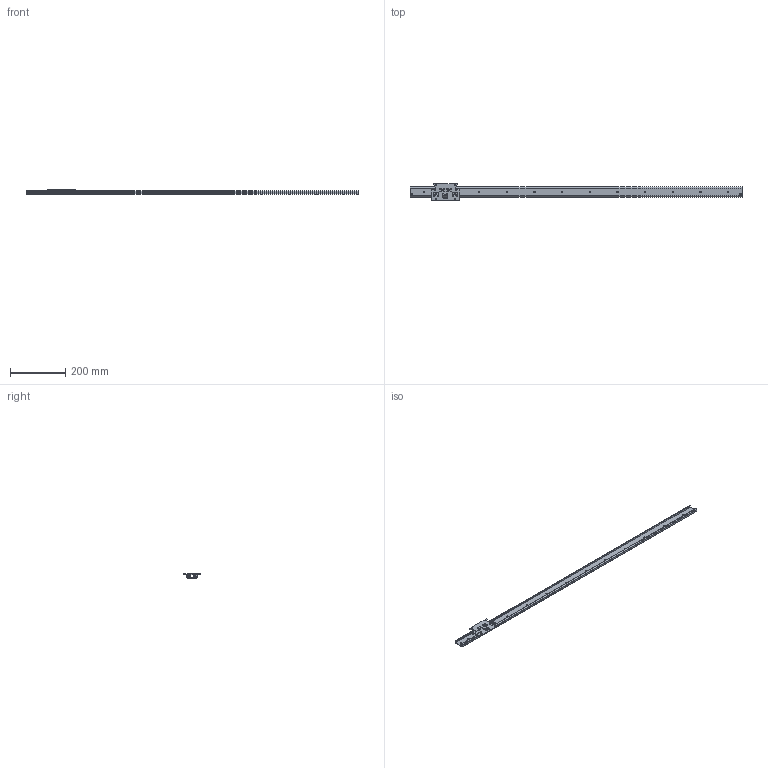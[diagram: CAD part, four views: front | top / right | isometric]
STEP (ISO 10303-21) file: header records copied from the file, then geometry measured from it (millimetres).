
FILE_DESCRIPTION((''),'1');
FILE_NAME('H:/図庫/国内ﾕﾆｯﾄ/ｽﾗｲﾄﾞ/ホームページ用ＣＡＤ図面/3D/37SW/stp', '2018-10-22T23:37:29',(''), (''), 'KCM Version 1.1.1442.0', 'Kubotek KeyCreator', '');
FILE_SCHEMA(('AUTOMOTIVE_DESIGN'));
Length unit declared in the file: millimetre
Bounding box: 1200 x 60 x 14.8 mm (x, y, z)
Surface area: 162417.7 mm2 (no closed solid volume)
Topology: 0 solids, 639 shells, 639 faces, 2587 edges, 2286 vertices
Faces by surface type: plane 266, cone 170, cylinder 148, torus 48, bspline 6, sphere 1
Full cylindrical faces by diameter (mm): 2.3 x6, 2.44 x7, 3 x21, 3.5 x1, 4 x7, 4.03 x6, 4.5 x6, 5 x6, 5.5 x2, 5.6 x3, 6 x5, 8 x6, 8.2 x2
Entity records: 28377 total; most frequent: CARTESIAN_POINT 5840, DIRECTION 5037, ORIENTED_EDGE 2888, EDGE_CURVE 2586, VERTEX_POINT 2279, AXIS2_PLACEMENT_3D 1932, CIRCLE 1264, VECTOR 1173
